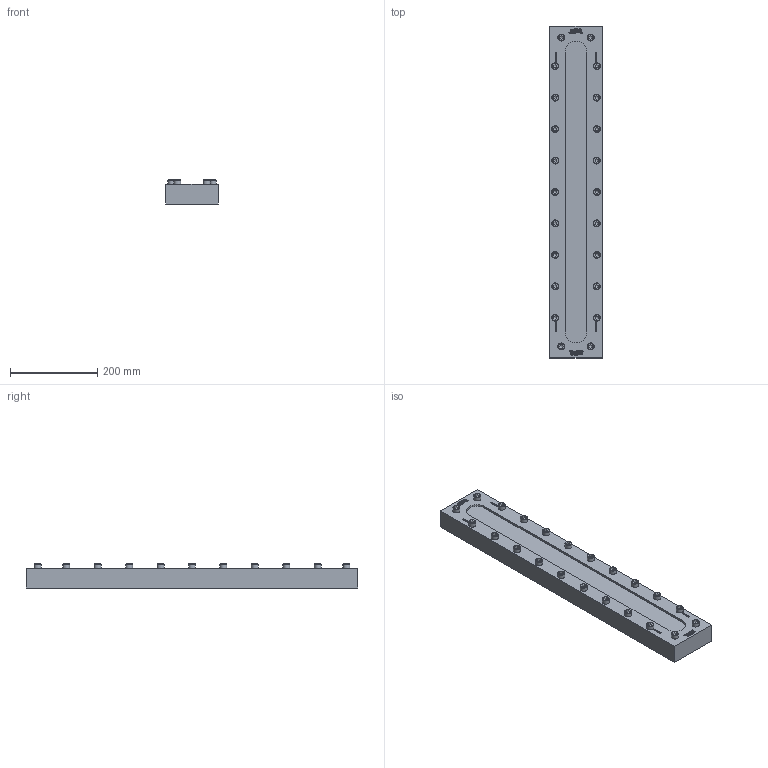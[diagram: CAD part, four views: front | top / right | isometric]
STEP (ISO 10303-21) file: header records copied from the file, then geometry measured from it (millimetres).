
FILE_DESCRIPTION(/* description */ (''),/* implementation_level */ '2;1');
FILE_NAME(/* name */ 'W:\Konstruktion_ACI\334\_Zeichnungen\STEP\ACI-334-760-3.stp',/* time_stamp */ '2022-03-02T17:02:09+01:00',/* author */ ('Travnicek'),/* organization */ ('ACI Industriearmaturen'),/* preprocessor_version */ 'ST-DEVELOPER v16.1',/* originating_system */ 'Autodesk Inventor 2016',/* authorisation */ '');
FILE_SCHEMA (('AUTOMOTIVE_DESIGN { 1 0 10303 214 3 1 1 }'));
Length unit declared in the file: centimetre
Products named in the file (1): 334
Bounding box: 120 x 760 x 54.96 mm (x, y, z)
Volume: 3328295.2 mm3; surface area: 311207.7 mm2
Topology: 1 solids, 1 shells, 1412 faces, 3860 edges, 2566 vertices
Faces by surface type: plane 970, bspline 372, cylinder 26, torus 22, cone 22
Full cylindrical faces by diameter (mm): 16 x22
Entity records: 46444 total; most frequent: CARTESIAN_POINT 12785, ORIENTED_EDGE 7500, DIRECTION 5030, EDGE_CURVE 3750, LINE 2800, VECTOR 2800, VERTEX_POINT 2522, EDGE_LOOP 1594
